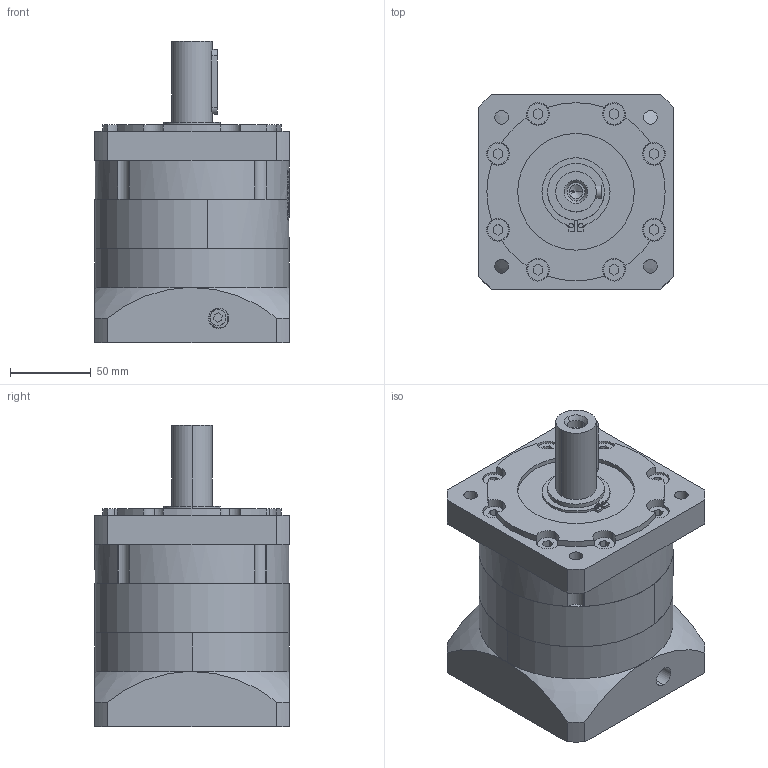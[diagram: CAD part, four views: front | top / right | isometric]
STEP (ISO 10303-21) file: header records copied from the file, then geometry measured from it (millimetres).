
FILE_DESCRIPTION (( 'STEP AP203' ), '1' );
FILE_NAME ('PLF120-L1-19-95-115.STEP', '2022-06-22T09:06:29', ( 'Windows User' ), ( 'P R C' ), 'SwSTEP 2.0', 'SolidWorks 2016', '' );
FILE_SCHEMA (( 'CONFIG_CONTROL_DESIGN' ));
Length unit declared in the file: millimetre
Products named in the file (8): PLF120-L1-19-95-115; 囀鞠褒蹟佪 M6x20; PLF120 蟀諉啣-95-M8-115-LR41; PLF120 κｳﾝﾈｦ-ﾓﾅｻｯ_ﾒｻｼｶﾄﾚｳﾝﾈｦ; PLF120 奻屳唳; PLF120 狟屳唳-19; 粣創-6007 40x68x15; 邧埴瑩 8x7x40
Assembly tree (7 placements, depth 2):
  PLF120-L1-19-95-115
    囀鞠褒蹟佪 M6x20
    PLF120 蟀諉啣-95-M8-115-LR41
    PLF120 κｳﾝﾈｦ-ﾓﾅｻｯ_ﾒｻｼｶﾄﾚｳﾝﾈｦ
    PLF120 奻屳唳
    PLF120 狟屳唳-19
    粣創-6007 40x68x15
    邧埴瑩 8x7x40
Bounding box: 120 x 120 x 186 mm (x, y, z)
Volume: 1521107.2 mm3; surface area: 227503.5 mm2
Topology: 7 solids, 15 shells, 1127 faces, 3065 edges, 2027 vertices
Faces by surface type: plane 611, cylinder 222, bspline 134, sphere 94, torus 52, cone 14
Entity records: 46073 total; most frequent: CARTESIAN_POINT 17610, ORIENTED_EDGE 6098, DIRECTION 5252, EDGE_CURVE 3049, VERTEX_POINT 2023, AXIS2_PLACEMENT_3D 1866, LINE 1520, VECTOR 1520
